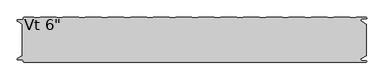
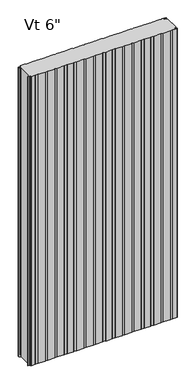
"""IFC4 building model written with IfcOpenShell, lengths in millimetres: plate geometry."""

from ifc_helpers import new_model, si_unit, frame, origin, place, context, project, spatial, polyline, circle_curve, source, transform, mapped, element, save
from ifc_brep_helpers import plane_surface, cylinder_surface, revolved_surface, advanced_brep


def plate_a32a1a45(model_context):
    return source(origin(), model_context, "Body", "AdvancedBrep", [
        advanced_brep(
        [(521.5205195, -150.2088405, 2400.0), (541.3035142, -150.2088405, 2400.0), (542.3760351, -151.3999956, 2400.0), (574.5475652, -151.3999956, 2400.0), (576.5248337, -149.4227271, 2400.0), (576.5248337, -148.3806285, 2400.0), (574.5475652, -146.40336, 2400.0), (560.3591802, -146.40336, 2400.0), (557.7713036, -143.8154835, 2400.0), (557.7713036, -139.4950653, 2400.0), (557.1628365, -138.9060718, 2400.0), (554.7857432, -138.9060718, 2400.0), (554.7857432, -137.9065979, 2400.0), (560.2280123, -137.9065979, 2400.0), (576.2625, -128.6490821, 2400.0), (576.2625, -23.7509179, 2400.0), (560.2280123, -14.4934021, 2400.0), (554.7857432, -14.4934021, 2400.0), (554.7857432, -13.4939282, 2400.0), (557.1628365, -13.4939282, 2400.0), (557.7713036, -12.9049347, 2400.0), (557.7713036, -8.5845165, 2400.0), (560.3591802, -5.99664, 2400.0), (574.5475652, -5.99664, 2400.0), (576.5248337, -4.0193715, 2400.0), (576.5248337, -2.9772729, 2400.0), (574.5475652, -1.0000044, 2400.0), (542.3760351, -1.0000044, 2400.0), (541.3035142, -2.1911595, 2400.0), (521.5205195, -2.1911595, 2400.0), (520.4479947, -1.0, 2400.0), (466.7534187, -1.0, 2400.0), (465.6808939, -2.1911595, 2400.0), (445.8978992, -2.1911595, 2400.0), (444.8253744, -1.0, 2400.0), (391.1307985, -1.0, 2400.0), (390.0582736, -2.1911595, 2400.0), (370.275279, -2.1911595, 2400.0), (369.2027541, -1.0, 2400.0), (315.5081782, -1.0, 2400.0), (314.4356534, -2.1911595, 2400.0), (294.6526587, -2.1911595, 2400.0), (293.5801339, -1.0, 2400.0), (239.885558, -1.0, 2400.0), (238.8130331, -2.1911595, 2400.0), (219.0300384, -2.1911595, 2400.0), (217.9575136, -1.0, 2400.0), (164.2629377, -1.0, 2400.0), (163.1904129, -2.1911595, 2400.0), (143.4074182, -2.1911595, 2400.0), (142.3348933, -1.0, 2400.0), (88.6403174, -1.0, 2400.0), (87.5677926, -2.1911595, 2400.0), (67.7847979, -2.1911595, 2400.0), (66.7122731, -1.0, 2400.0), (13.0176972, -1.0, 2400.0), (11.9451723, -2.1911595, 2400.0), (-7.8378224, -2.1911595, 2400.0), (-8.9103472, -1.0, 2400.0), (-62.6049231, -1.0, 2400.0), (-63.6774479, -2.1911595, 2400.0), (-83.4604426, -2.1911595, 2400.0), (-84.5329675, -1.0, 2400.0), (-138.2275434, -1.0, 2400.0), (-139.3000682, -2.1911595, 2400.0), (-159.0830629, -2.1911595, 2400.0), (-160.1555877, -1.0, 2400.0), (-213.8501636, -1.0, 2400.0), (-214.9226885, -2.1911595, 2400.0), (-234.7056831, -2.1911595, 2400.0), (-235.778208, -1.0, 2400.0), (-289.4727839, -1.0, 2400.0), (-290.5453087, -2.1911595, 2400.0), (-310.3283034, -2.1911595, 2400.0), (-311.4008282, -1.0, 2400.0), (-365.0954042, -1.0, 2400.0), (-366.167929, -2.1911595, 2400.0), (-385.9509237, -2.1911595, 2400.0), (-387.0234485, -1.0, 2400.0), (-440.7180244, -1.0, 2400.0), (-441.7905493, -2.1911595, 2400.0), (-461.5735439, -2.1911595, 2400.0), (-462.6460688, -1.0, 2400.0), (-516.3406447, -1.0, 2400.0), (-517.4131695, -2.1911595, 2400.0), (-537.1961642, -2.1911595, 2400.0), (-538.268689, -1.0000109, 2400.0), (-570.4352761, -1.0000109, 2400.0), (-572.4125501, -2.9772849, 2400.0), (-572.4125501, -5.2691749, 2400.0), (-576.3898173, -9.246442, 2400.0), (-591.9862417, -9.246442, 2400.0), (-592.5741186, -9.8343189, 2400.0), (-592.5741186, -12.9058679, 2400.0), (-591.986242, -13.4937446, 2400.0), (-589.6312064, -13.4937446, 2400.0), (-589.6312064, -14.4937446, 2400.0), (-591.9207851, -14.4937446, 2400.0), (-576.2625, -23.7509179, 2400.0), (-576.2625, -128.6490865, 2400.0), (-591.9207851, -137.9062554, 2400.0), (-589.6312064, -137.9062554, 2400.0), (-589.6312064, -138.9062554, 2400.0), (-591.986242, -138.9062554, 2400.0), (-592.5741186, -139.4941321, 2400.0), (-592.5741186, -142.5656811, 2400.0), (-591.9862417, -143.153558, 2400.0), (-576.3898173, -143.153558, 2400.0), (-572.4125501, -147.1308251, 2400.0), (-572.4125501, -149.4227151, 2400.0), (-570.4352761, -151.3999891, 2400.0), (-538.268689, -151.3999891, 2400.0), (-537.1961642, -150.2088405, 2400.0), (-517.4131695, -150.2088405, 2400.0), (-516.3406447, -151.4, 2400.0), (-462.6460688, -151.4, 2400.0), (-461.5735439, -150.2088405, 2400.0), (-441.7905493, -150.2088405, 2400.0), (-440.7180244, -151.4, 2400.0), (-387.0234485, -151.4, 2400.0), (-385.9509237, -150.2088405, 2400.0), (-366.167929, -150.2088405, 2400.0), (-365.0954042, -151.4, 2400.0), (-311.4008282, -151.4, 2400.0), (-310.3283034, -150.2088405, 2400.0), (-290.5453087, -150.2088405, 2400.0), (-289.4727839, -151.4, 2400.0), (-235.778208, -151.4, 2400.0), (-234.7056831, -150.2088405, 2400.0), (-214.9226885, -150.2088405, 2400.0), (-213.8501636, -151.4, 2400.0), (-160.1555877, -151.4, 2400.0), (-159.0830629, -150.2088405, 2400.0), (-139.3000682, -150.2088405, 2400.0), (-138.2275434, -151.4, 2400.0), (-84.5329675, -151.4, 2400.0), (-83.4604426, -150.2088405, 2400.0), (-63.6774479, -150.2088405, 2400.0), (-62.6049231, -151.4, 2400.0), (-8.9103472, -151.4, 2400.0), (-7.8378224, -150.2088405, 2400.0), (11.9451723, -150.2088405, 2400.0), (13.0176972, -151.4, 2400.0), (66.7122731, -151.4, 2400.0), (67.7847979, -150.2088405, 2400.0), (87.5677926, -150.2088405, 2400.0), (88.6403174, -151.4, 2400.0), (142.3348933, -151.4, 2400.0), (143.4074182, -150.2088405, 2400.0), (163.1904129, -150.2088405, 2400.0), (164.2629377, -151.4, 2400.0), (217.9575136, -151.4, 2400.0), (219.0300384, -150.2088405, 2400.0), (238.8130331, -150.2088405, 2400.0), (239.885558, -151.4, 2400.0), (293.5801339, -151.4, 2400.0), (294.6526587, -150.2088405, 2400.0), (314.4356534, -150.2088405, 2400.0), (315.5081782, -151.4, 2400.0), (369.2027541, -151.4, 2400.0), (370.275279, -150.2088405, 2400.0), (390.0582736, -150.2088405, 2400.0), (391.1307985, -151.4, 2400.0), (444.8253744, -151.4, 2400.0), (445.8978992, -150.2088405, 2400.0), (465.6808939, -150.2088405, 2400.0), (466.7534187, -151.4, 2400.0), (520.4479947, -151.4, 2400.0), (521.5205195, -150.2088405, 0.0), (520.4479947, -151.4, 0.0), (466.7534187, -151.4, 0.0), (465.6808939, -150.2088405, 0.0), (445.8978992, -150.2088405, 0.0), (444.8253744, -151.4, 0.0), (391.1307985, -151.4, 0.0), (390.0582736, -150.2088405, 0.0), (370.275279, -150.2088405, 0.0), (369.2027541, -151.4, 0.0), (315.5081782, -151.4, 0.0), (314.4356534, -150.2088405, 0.0), (294.6526587, -150.2088405, 0.0), (293.5801339, -151.4, 0.0), (239.885558, -151.4, 0.0), (238.8130331, -150.2088405, 0.0), (219.0300384, -150.2088405, 0.0), (217.9575136, -151.4, 0.0), (164.2629377, -151.4, 0.0), (163.1904129, -150.2088405, 0.0), (143.4074182, -150.2088405, 0.0), (142.3348933, -151.4, 0.0), (88.6403174, -151.4, 0.0), (87.5677926, -150.2088405, 0.0), (67.7847979, -150.2088405, 0.0), (66.7122731, -151.4, 0.0), (13.0176972, -151.4, 0.0), (11.9451723, -150.2088405, 0.0), (-7.8378224, -150.2088405, 0.0), (-8.9103472, -151.4, 0.0), (-62.6049231, -151.4, 0.0), (-63.6774479, -150.2088405, 0.0), (-83.4604426, -150.2088405, 0.0), (-84.5329675, -151.4, 0.0), (-138.2275434, -151.4, 0.0), (-139.3000682, -150.2088405, 0.0), (-159.0830629, -150.2088405, 0.0), (-160.1555877, -151.4, 0.0), (-213.8501636, -151.4, 0.0), (-214.9226885, -150.2088405, 0.0), (-234.7056831, -150.2088405, 0.0), (-235.778208, -151.4, 0.0), (-289.4727839, -151.4, 0.0), (-290.5453087, -150.2088405, 0.0), (-310.3283034, -150.2088405, 0.0), (-311.4008282, -151.4, 0.0), (-365.0954042, -151.4, 0.0), (-366.167929, -150.2088405, 0.0), (-385.9509237, -150.2088405, 0.0), (-387.0234485, -151.4, 0.0), (-440.7180244, -151.4, 0.0), (-441.7905493, -150.2088405, 0.0), (-461.5735439, -150.2088405, 0.0), (-462.6460688, -151.4, 0.0), (-516.3406447, -151.4, 0.0), (-517.4131695, -150.2088405, 0.0), (-537.1961642, -150.2088405, 0.0), (-538.268689, -151.3999891, 0.0), (-570.4352761, -151.3999891, 0.0), (-572.4125501, -149.4227151, 0.0), (-572.4125501, -147.1308251, 0.0), (-576.3898173, -143.153558, 0.0), (-591.9862417, -143.153558, 0.0), (-592.5741186, -142.5656811, 0.0), (-592.5741186, -139.4941321, 0.0), (-591.986242, -138.9062554, 0.0), (-589.6312064, -138.9062554, 0.0), (-589.6312064, -137.9062554, 0.0), (-591.9207851, -137.9062554, 0.0), (-576.2625, -128.6490821, 0.0), (-576.2625, -23.7509179, 0.0), (-591.9207851, -14.4937446, 0.0), (-589.6312064, -14.4937446, 0.0), (-589.6312064, -13.4937446, 0.0), (-591.986242, -13.4937446, 0.0), (-592.5741186, -12.9058679, 0.0), (-592.5741186, -9.8343189, 0.0), (-591.9862417, -9.246442, 0.0), (-576.3898173, -9.246442, 0.0), (-572.4125501, -5.2691749, 0.0), (-572.4125501, -2.9772849, 0.0), (-570.4352761, -1.0000109, 0.0), (-538.268689, -1.0000109, 0.0), (-537.1961642, -2.1911595, 0.0), (-517.4131695, -2.1911595, 0.0), (-516.3406447, -1.0, 0.0), (-462.6460688, -1.0, 0.0), (-461.5735439, -2.1911595, 0.0), (-441.7905493, -2.1911595, 0.0), (-440.7180244, -1.0, 0.0), (-387.0234485, -1.0, 0.0), (-385.9509237, -2.1911595, 0.0), (-366.167929, -2.1911595, 0.0), (-365.0954042, -1.0, 0.0), (-311.4008282, -1.0, 0.0), (-310.3283034, -2.1911595, 0.0), (-290.5453087, -2.1911595, 0.0), (-289.4727839, -1.0, 0.0), (-235.778208, -1.0, 0.0), (-234.7056831, -2.1911595, 0.0), (-214.9226885, -2.1911595, 0.0), (-213.8501636, -1.0, 0.0), (-160.1555877, -1.0, 0.0), (-159.0830629, -2.1911595, 0.0), (-139.3000682, -2.1911595, 0.0), (-138.2275434, -1.0, 0.0), (-84.5329675, -1.0, 0.0), (-83.4604426, -2.1911595, 0.0), (-63.6774479, -2.1911595, 0.0), (-62.6049231, -1.0, 0.0), (-8.9103472, -1.0, 0.0), (-7.8378224, -2.1911595, 0.0), (11.9451723, -2.1911595, 0.0), (13.0176972, -1.0, 0.0), (66.7122731, -1.0, 0.0), (67.7847979, -2.1911595, 0.0), (87.5677926, -2.1911595, 0.0), (88.6403174, -1.0, 0.0), (142.3348933, -1.0, 0.0), (143.4074182, -2.1911595, 0.0), (163.1904129, -2.1911595, 0.0), (164.2629377, -1.0, 0.0), (217.9575136, -1.0, 0.0), (219.0300384, -2.1911595, 0.0), (238.8130331, -2.1911595, 0.0), (239.885558, -1.0, 0.0), (293.5801339, -1.0, 0.0), (294.6526587, -2.1911595, 0.0), (314.4356534, -2.1911595, 0.0), (315.5081782, -1.0, 0.0), (369.2027541, -1.0, 0.0), (370.275279, -2.1911595, 0.0), (390.0582736, -2.1911595, 0.0), (391.1307985, -1.0, 0.0), (444.8253744, -1.0, 0.0), (445.8978992, -2.1911595, 0.0), (465.6808939, -2.1911595, 0.0), (466.7534187, -1.0, 0.0), (520.4479947, -1.0, 0.0), (521.5205195, -2.1911595, 0.0), (541.3035142, -2.1911595, 0.0), (542.3760351, -1.0000044, 0.0), (574.5475652, -1.0000044, 0.0), (576.5248337, -2.9772729, 0.0), (576.5248337, -4.0193715, 0.0), (574.5475652, -5.99664, 0.0), (560.3591802, -5.99664, 0.0), (557.7713036, -8.5845165, 0.0), (557.7713036, -12.9049347, 0.0), (557.1628365, -13.4939282, 0.0), (554.7857432, -13.4939282, 0.0), (554.7857432, -14.4934021, 0.0), (560.2280123, -14.4934021, 0.0), (576.2625, -23.7509179, 0.0), (576.2625, -128.6490865, 0.0), (560.2280123, -137.9065979, 0.0), (554.7857432, -137.9065979, 0.0), (554.7857432, -138.9060718, 0.0), (557.1628365, -138.9060718, 0.0), (557.7713036, -139.4950653, 0.0), (557.7713036, -143.8154835, 0.0), (560.3591802, -146.40336, 0.0), (574.5475652, -146.40336, 0.0), (576.5248337, -148.3806285, 0.0), (576.5248337, -149.4227271, 0.0), (574.5475652, -151.3999956, 0.0), (542.3760351, -151.3999956, 0.0), (541.3035142, -150.2088405, 0.0)],
        [
            (0, 1),
            (1, 2),
            (2, 3),
            (3, 4, circle_curve(frame((574.5475652, -149.4227271, 2400.0), z_axis=(0.0, 0.0, 1.0), x_axis=(-1.0, 0.0, 0.0)), 1.9772685)),
            (4, 5),
            (5, 6, circle_curve(frame((574.5475652, -148.3806285, 2400.0), z_axis=(0.0, 0.0, 1.0), x_axis=(-1.0, 0.0, 0.0)), 1.9772685)),
            (6, 7),
            (7, 8, circle_curve(frame((560.3591802, -143.8154835, 2400.0), z_axis=(0.0, 0.0, -1.0), x_axis=(-1.0, 0.0, 0.0)), 2.5878765)),
            (8, 9),
            (9, 10, circle_curve(frame((557.1819985, -139.4950653, 2400.0), z_axis=(0.0, 0.0, 1.0), x_axis=(-1.0, 0.0, 0.0)), 0.5893051)),
            (10, 11),
            (11, 12),
            (12, 13),
            (13, 14),
            (14, 15),
            (15, 16),
            (16, 17),
            (17, 18),
            (18, 19),
            (19, 20, circle_curve(frame((557.1819985, -12.9049347, 2400.0), z_axis=(0.0, 0.0, 1.0), x_axis=(0.0, 1.0, 0.0)), 0.5893051)),
            (20, 21),
            (21, 22, circle_curve(frame((560.3591802, -8.5845165, 2400.0), z_axis=(0.0, 0.0, -1.0), x_axis=(0.0, 1.0, 0.0)), 2.5878765)),
            (22, 23),
            (23, 24, circle_curve(frame((574.5475652, -4.0193715, 2400.0), z_axis=(0.0, 0.0, 1.0), x_axis=(0.0, 1.0, 0.0)), 1.9772685)),
            (24, 25),
            (25, 26, circle_curve(frame((574.5475652, -2.9772729, 2400.0), z_axis=(0.0, 0.0, 1.0), x_axis=(0.0, 1.0, 0.0)), 1.9772685)),
            (26, 27),
            (27, 28),
            (28, 29),
            (29, 30),
            (30, 31),
            (31, 32),
            (32, 33),
            (33, 34),
            (34, 35),
            (35, 36),
            (36, 37),
            (37, 38),
            (38, 39),
            (39, 40),
            (40, 41),
            (41, 42),
            (42, 43),
            (43, 44),
            (44, 45),
            (45, 46),
            (46, 47),
            (47, 48),
            (48, 49),
            (49, 50),
            (50, 51),
            (51, 52),
            (52, 53),
            (53, 54),
            (54, 55),
            (55, 56),
            (56, 57),
            (57, 58),
            (58, 59),
            (59, 60),
            (60, 61),
            (61, 62),
            (62, 63),
            (63, 64),
            (64, 65),
            (65, 66),
            (66, 67),
            (67, 68),
            (68, 69),
            (69, 70),
            (70, 71),
            (71, 72),
            (72, 73),
            (73, 74),
            (74, 75),
            (75, 76),
            (76, 77),
            (77, 78),
            (78, 79),
            (79, 80),
            (80, 81),
            (81, 82),
            (82, 83),
            (83, 84),
            (84, 85),
            (85, 86),
            (86, 87),
            (87, 88, circle_curve(frame((-570.4352761, -2.9772849, 2400.0), z_axis=(0.0, 0.0, 1.0), x_axis=(0.0, 1.0, 0.0)), 1.977274)),
            (88, 89),
            (89, 90, circle_curve(frame((-576.3898173, -5.2691749, 2400.0), z_axis=(0.0, 0.0, -1.0), x_axis=(0.0, 1.0, 0.0)), 3.9772671)),
            (90, 91),
            (91, 92, circle_curve(frame((-591.9862417, -9.8343189, 2400.0), z_axis=(0.0, 0.0, 1.0), x_axis=(0.0, 1.0, 0.0)), 0.5878769)),
            (92, 93),
            (93, 94, circle_curve(frame((-591.986242, -12.9058679, 2400.0), z_axis=(0.0, 0.0, 1.0), x_axis=(0.0, 1.0, 0.0)), 0.5878766)),
            (94, 95),
            (95, 96),
            (96, 97),
            (97, 98),
            (98, 99),
            (99, 100),
            (100, 101),
            (101, 102),
            (102, 103),
            (103, 104, circle_curve(frame((-591.986242, -139.4941321, 2400.0), z_axis=(0.0, 0.0, 1.0), x_axis=(-1.0, 0.0, 0.0)), 0.5878766)),
            (104, 105),
            (105, 106, circle_curve(frame((-591.9862417, -142.5656811, 2400.0), z_axis=(0.0, 0.0, 1.0), x_axis=(-1.0, 0.0, 0.0)), 0.5878769)),
            (106, 107),
            (107, 108, circle_curve(frame((-576.3898173, -147.1308251, 2400.0), z_axis=(0.0, 0.0, -1.0), x_axis=(-1.0, 0.0, 0.0)), 3.9772671)),
            (108, 109),
            (109, 110, circle_curve(frame((-570.4352761, -149.4227151, 2400.0), z_axis=(0.0, 0.0, 1.0), x_axis=(-1.0, 0.0, 0.0)), 1.977274)),
            (110, 111),
            (111, 112),
            (112, 113),
            (113, 114),
            (114, 115),
            (115, 116),
            (116, 117),
            (117, 118),
            (118, 119),
            (119, 120),
            (120, 121),
            (121, 122),
            (122, 123),
            (123, 124),
            (124, 125),
            (125, 126),
            (126, 127),
            (127, 128),
            (128, 129),
            (129, 130),
            (130, 131),
            (131, 132),
            (132, 133),
            (133, 134),
            (134, 135),
            (135, 136),
            (136, 137),
            (137, 138),
            (138, 139),
            (139, 140),
            (140, 141),
            (141, 142),
            (142, 143),
            (143, 144),
            (144, 145),
            (145, 146),
            (146, 147),
            (147, 148),
            (148, 149),
            (149, 150),
            (150, 151),
            (151, 152),
            (152, 153),
            (153, 154),
            (154, 155),
            (155, 156),
            (156, 157),
            (157, 158),
            (158, 159),
            (159, 160),
            (160, 161),
            (161, 162),
            (162, 163),
            (163, 164),
            (164, 165),
            (165, 166),
            (166, 167),
            (167, 0),
            (168, 169),
            (169, 170),
            (170, 171),
            (171, 172),
            (172, 173),
            (173, 174),
            (174, 175),
            (175, 176),
            (176, 177),
            (177, 178),
            (178, 179),
            (179, 180),
            (180, 181),
            (181, 182),
            (182, 183),
            (183, 184),
            (184, 185),
            (185, 186),
            (186, 187),
            (187, 188),
            (188, 189),
            (189, 190),
            (190, 191),
            (191, 192),
            (192, 193),
            (193, 194),
            (194, 195),
            (195, 196),
            (196, 197),
            (197, 198),
            (198, 199),
            (199, 200),
            (200, 201),
            (201, 202),
            (202, 203),
            (203, 204),
            (204, 205),
            (205, 206),
            (206, 207),
            (207, 208),
            (208, 209),
            (209, 210),
            (210, 211),
            (211, 212),
            (212, 213),
            (213, 214),
            (214, 215),
            (215, 216),
            (216, 217),
            (217, 218),
            (218, 219),
            (219, 220),
            (220, 221),
            (221, 222),
            (222, 223),
            (223, 224),
            (224, 225),
            (225, 226),
            (226, 227, circle_curve(frame((-570.4352761, -149.4227151, 0.0), z_axis=(0.0, 0.0, -1.0), x_axis=(-1.0, 0.0, 0.0)), 1.977274)),
            (227, 228),
            (228, 229, circle_curve(frame((-576.3898173, -147.1308251, 0.0), z_axis=(0.0, 0.0, 1.0), x_axis=(-1.0, 0.0, 0.0)), 3.9772671)),
            (229, 230),
            (230, 231, circle_curve(frame((-591.9862417, -142.5656811, 0.0), z_axis=(0.0, 0.0, -1.0), x_axis=(-1.0, 0.0, 0.0)), 0.5878769)),
            (231, 232),
            (232, 233, circle_curve(frame((-591.986242, -139.4941321, 0.0), z_axis=(0.0, 0.0, -1.0), x_axis=(-1.0, 0.0, 0.0)), 0.5878766)),
            (233, 234),
            (234, 235),
            (235, 236),
            (236, 237),
            (237, 238),
            (238, 239),
            (239, 240),
            (240, 241),
            (241, 242),
            (242, 243, circle_curve(frame((-591.986242, -12.9058679, 0.0), z_axis=(0.0, 0.0, -1.0), x_axis=(0.0, 1.0, 0.0)), 0.5878766)),
            (243, 244),
            (244, 245, circle_curve(frame((-591.9862417, -9.8343189, 0.0), z_axis=(0.0, 0.0, -1.0), x_axis=(0.0, 1.0, 0.0)), 0.5878769)),
            (245, 246),
            (246, 247, circle_curve(frame((-576.3898173, -5.2691749, 0.0), z_axis=(0.0, 0.0, 1.0), x_axis=(0.0, 1.0, 0.0)), 3.9772671)),
            (247, 248),
            (248, 249, circle_curve(frame((-570.4352761, -2.9772849, 0.0), z_axis=(0.0, 0.0, -1.0), x_axis=(0.0, 1.0, 0.0)), 1.977274)),
            (249, 250),
            (250, 251),
            (251, 252),
            (252, 253),
            (253, 254),
            (254, 255),
            (255, 256),
            (256, 257),
            (257, 258),
            (258, 259),
            (259, 260),
            (260, 261),
            (261, 262),
            (262, 263),
            (263, 264),
            (264, 265),
            (265, 266),
            (266, 267),
            (267, 268),
            (268, 269),
            (269, 270),
            (270, 271),
            (271, 272),
            (272, 273),
            (273, 274),
            (274, 275),
            (275, 276),
            (276, 277),
            (277, 278),
            (278, 279),
            (279, 280),
            (280, 281),
            (281, 282),
            (282, 283),
            (283, 284),
            (284, 285),
            (285, 286),
            (286, 287),
            (287, 288),
            (288, 289),
            (289, 290),
            (290, 291),
            (291, 292),
            (292, 293),
            (293, 294),
            (294, 295),
            (295, 296),
            (296, 297),
            (297, 298),
            (298, 299),
            (299, 300),
            (300, 301),
            (301, 302),
            (302, 303),
            (303, 304),
            (304, 305),
            (305, 306),
            (306, 307),
            (307, 308),
            (308, 309),
            (309, 310),
            (310, 311, circle_curve(frame((574.5475652, -2.9772729, 0.0), z_axis=(0.0, 0.0, -1.0), x_axis=(0.0, 1.0, 0.0)), 1.9772685)),
            (311, 312),
            (312, 313, circle_curve(frame((574.5475652, -4.0193715, 0.0), z_axis=(0.0, 0.0, -1.0), x_axis=(0.0, 1.0, 0.0)), 1.9772685)),
            (313, 314),
            (314, 315, circle_curve(frame((560.3591802, -8.5845165, 0.0), z_axis=(0.0, 0.0, 1.0), x_axis=(0.0, 1.0, 0.0)), 2.5878765)),
            (315, 316),
            (316, 317, circle_curve(frame((557.1819985, -12.9049347, 0.0), z_axis=(0.0, 0.0, -1.0), x_axis=(0.0, 1.0, 0.0)), 0.5893051)),
            (317, 318),
            (318, 319),
            (319, 320),
            (320, 321),
            (321, 322),
            (322, 323),
            (323, 324),
            (324, 325),
            (325, 326),
            (326, 327, circle_curve(frame((557.1819985, -139.4950653, 0.0), z_axis=(0.0, 0.0, -1.0), x_axis=(-1.0, 0.0, 0.0)), 0.5893051)),
            (327, 328),
            (328, 329, circle_curve(frame((560.3591802, -143.8154835, 0.0), z_axis=(0.0, 0.0, 1.0), x_axis=(-1.0, 0.0, 0.0)), 2.5878765)),
            (329, 330),
            (330, 331, circle_curve(frame((574.5475652, -148.3806285, 0.0), z_axis=(0.0, 0.0, -1.0), x_axis=(-1.0, 0.0, 0.0)), 1.9772685)),
            (331, 332),
            (332, 333, circle_curve(frame((574.5475652, -149.4227271, 0.0), z_axis=(0.0, 0.0, -1.0), x_axis=(-1.0, 0.0, 0.0)), 1.9772685)),
            (333, 334),
            (334, 335),
            (335, 168),
            (98, 238),
            (237, 99),
            (14, 322),
            (321, 15),
            (28, 308),
            (307, 29),
            (27, 309),
            (26, 310),
            (25, 311),
            (24, 312),
            (23, 313),
            (22, 314),
            (21, 315),
            (20, 316),
            (19, 317),
            (18, 318),
            (17, 319),
            (16, 320),
            (97, 239),
            (96, 240),
            (95, 241),
            (94, 242),
            (93, 243),
            (92, 244),
            (91, 245),
            (90, 246),
            (89, 247),
            (88, 248),
            (87, 249),
            (86, 250),
            (85, 251),
            (84, 252),
            (83, 253),
            (82, 254),
            (81, 255),
            (80, 256),
            (79, 257),
            (78, 258),
            (77, 259),
            (76, 260),
            (75, 261),
            (74, 262),
            (73, 263),
            (72, 264),
            (71, 265),
            (70, 266),
            (69, 267),
            (68, 268),
            (67, 269),
            (66, 270),
            (65, 271),
            (64, 272),
            (63, 273),
            (62, 274),
            (61, 275),
            (60, 276),
            (59, 277),
            (58, 278),
            (57, 279),
            (56, 280),
            (55, 281),
            (54, 282),
            (53, 283),
            (52, 284),
            (51, 285),
            (50, 286),
            (49, 287),
            (48, 288),
            (47, 289),
            (46, 290),
            (45, 291),
            (44, 292),
            (43, 293),
            (42, 294),
            (41, 295),
            (40, 296),
            (39, 297),
            (38, 298),
            (37, 299),
            (36, 300),
            (35, 301),
            (34, 302),
            (33, 303),
            (32, 304),
            (31, 305),
            (30, 306),
            (167, 169),
            (168, 0),
            (166, 170),
            (165, 171),
            (164, 172),
            (163, 173),
            (162, 174),
            (161, 175),
            (160, 176),
            (159, 177),
            (158, 178),
            (157, 179),
            (156, 180),
            (155, 181),
            (154, 182),
            (153, 183),
            (152, 184),
            (151, 185),
            (150, 186),
            (149, 187),
            (148, 188),
            (147, 189),
            (146, 190),
            (145, 191),
            (144, 192),
            (143, 193),
            (142, 194),
            (141, 195),
            (140, 196),
            (139, 197),
            (138, 198),
            (137, 199),
            (136, 200),
            (135, 201),
            (134, 202),
            (133, 203),
            (132, 204),
            (131, 205),
            (130, 206),
            (129, 207),
            (128, 208),
            (127, 209),
            (126, 210),
            (125, 211),
            (124, 212),
            (123, 213),
            (122, 214),
            (121, 215),
            (120, 216),
            (119, 217),
            (118, 218),
            (117, 219),
            (116, 220),
            (115, 221),
            (114, 222),
            (113, 223),
            (112, 224),
            (111, 225),
            (110, 226),
            (109, 227),
            (108, 228),
            (107, 229),
            (106, 230),
            (105, 231),
            (104, 232),
            (103, 233),
            (102, 234),
            (101, 235),
            (100, 236),
            (13, 323),
            (12, 324),
            (11, 325),
            (10, 326),
            (9, 327),
            (8, 328),
            (7, 329),
            (6, 330),
            (5, 331),
            (4, 332),
            (3, 333),
            (2, 334),
            (1, 335),
        ],
        [
            plane_surface(frame((0.0, -151.4, 2400.0), z_axis=(0.0, 0.0, 1.0), x_axis=(0.0, -1.0, 0.0))),
            plane_surface(frame((0.0, -151.4, 0.0), z_axis=(0.0, 0.0, -1.0), x_axis=(0.0, -1.0, 0.0))),
            plane_surface(frame((-576.2625, -128.6490865, 2400.0), z_axis=(-1.0, 0.0, 0.0), x_axis=(0.0, 0.0, -1.0))),
            plane_surface(frame((576.2625, -23.7509179, 2400.0), z_axis=(1.0, 0.0, 0.0), x_axis=(0.0, 0.0, -1.0))),
            plane_surface(frame((521.5205195, -2.1911595, 2400.0), z_axis=(0.0, 1.0, 0.0), x_axis=(0.0, 0.0, -1.0))),
            plane_surface(frame((541.3035142, -2.1911595, 2400.0), z_axis=(-0.7431448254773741, 0.6691306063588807, 0.0), x_axis=(0.0, 0.0, -1.0))),
            plane_surface(frame((542.3760351, -1.0000044, 2400.0), z_axis=(0.0, 1.0, 0.0), x_axis=(0.0, 0.0, -1.0))),
            cylinder_surface(frame((574.5475652, -2.9772729, 2400.0), z_axis=(0.0, 0.0, 1.0), x_axis=(0.0, 1.0, 0.0)), 1.9772685),
            plane_surface(frame((576.5248337, -2.9772729, 2400.0), z_axis=(1.0, 0.0, 0.0), x_axis=(0.0, 0.0, -1.0))),
            cylinder_surface(frame((574.5475652, -4.0193715, 2400.0), z_axis=(0.0, 0.0, 1.0), x_axis=(0.0, 1.0, 0.0)), 1.9772685),
            plane_surface(frame((574.5475652, -5.99664, 2400.0), z_axis=(0.0, -1.0, 0.0), x_axis=(0.0, 0.0, -1.0))),
            revolved_surface(polyline([(560.3591802, -5.996639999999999, 0.0), (560.3591802, -5.996639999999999, 2400.0)]), (560.3591802, -8.5845165, 2400.0), (0.0, 0.0, -1.0)),
            plane_surface(frame((557.7713036, -8.5845165, 2400.0), z_axis=(1.0, 0.0, 0.0), x_axis=(0.0, 0.0, -1.0))),
            cylinder_surface(frame((557.1819985, -12.9049347, 2400.0), z_axis=(0.0, 0.0, 1.0), x_axis=(0.0, 1.0, 0.0)), 0.5893051),
            plane_surface(frame((557.1628365, -13.4939282, 2400.0), z_axis=(0.0, -1.0, 0.0), x_axis=(0.0, 0.0, -1.0))),
            plane_surface(frame((554.7857432, -13.4939282, 2400.0), z_axis=(1.0, 0.0, 0.0), x_axis=(0.0, 0.0, -1.0))),
            plane_surface(frame((554.7857432, -14.4934021, 2400.0), z_axis=(0.0, 1.0, 0.0), x_axis=(0.0, 0.0, -1.0))),
            plane_surface(frame((560.2280123, -14.4934021, 2400.0), z_axis=(0.5000000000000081, 0.866025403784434, 0.0), x_axis=(0.0, 0.0, -1.0))),
            plane_surface(frame((-576.2625, -23.7509179, 2400.0), z_axis=(-0.5089147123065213, -0.860816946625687, 0.0), x_axis=(0.0, 0.0, -1.0))),
            plane_surface(frame((-591.9207851, -14.4937446, 2400.0), z_axis=(0.0, 1.0, 0.0), x_axis=(0.0, 0.0, -1.0))),
            plane_surface(frame((-589.6312064, -14.4937446, 2400.0), z_axis=(-1.0, 0.0, 0.0), x_axis=(0.0, 0.0, -1.0))),
            plane_surface(frame((-589.6312064, -13.4937446, 2400.0), z_axis=(0.0, -1.0, 0.0), x_axis=(0.0, 0.0, -1.0))),
            cylinder_surface(frame((-591.986242, -12.9058679, 2400.0), z_axis=(0.0, 0.0, 1.0), x_axis=(0.0, 1.0, 0.0)), 0.5878766),
            plane_surface(frame((-592.5741186, -12.9058679, 2400.0), z_axis=(-1.0, 0.0, 0.0), x_axis=(0.0, 0.0, -1.0))),
            cylinder_surface(frame((-591.9862417, -9.8343189, 2400.0), z_axis=(0.0, 0.0, 1.0), x_axis=(0.0, 1.0, 0.0)), 0.5878769),
            plane_surface(frame((-591.9862417, -9.246442, 2400.0), z_axis=(0.0, 1.0, 0.0), x_axis=(0.0, 0.0, -1.0))),
            revolved_surface(polyline([(-576.3898173, -1.2919078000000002, 0.0), (-576.3898173, -1.2919078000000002, 2400.0)]), (-576.3898173, -5.2691749, 2400.0), (0.0, 0.0, -1.0)),
            plane_surface(frame((-572.4125501, -5.2691749, 2400.0), z_axis=(-1.0, 0.0, 0.0), x_axis=(0.0, 0.0, -1.0))),
            cylinder_surface(frame((-570.4352761, -2.9772849, 2400.0), z_axis=(0.0, 0.0, 1.0), x_axis=(0.0, 1.0, 0.0)), 1.977274),
            plane_surface(frame((-570.4352761, -1.0000109, 2400.0), z_axis=(0.0, 1.0, 0.0), x_axis=(0.0, 0.0, -1.0))),
            plane_surface(frame((-538.268689, -1.0000109, 2400.0), z_axis=(0.7431417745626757, 0.669133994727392, 0.0), x_axis=(0.0, 0.0, -1.0))),
            plane_surface(frame((-537.1961642, -2.1911595, 2400.0), z_axis=(0.0, 1.0, 0.0), x_axis=(0.0, 0.0, -1.0))),
            plane_surface(frame((-517.4131695, -2.1911595, 2400.0), z_axis=(-0.7431448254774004, 0.6691306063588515, 0.0), x_axis=(0.0, 0.0, -1.0))),
            plane_surface(frame((-516.3406447, -1.0, 2400.0), z_axis=(0.0, 1.0, 0.0), x_axis=(0.0, 0.0, -1.0))),
            plane_surface(frame((-462.6460688, -1.0, 2400.0), z_axis=(0.7431448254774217, 0.6691306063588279, 0.0), x_axis=(0.0, 0.0, -1.0))),
            plane_surface(frame((-461.5735439, -2.1911595, 2400.0), z_axis=(0.0, 1.0, 0.0), x_axis=(0.0, 0.0, -1.0))),
            plane_surface(frame((-441.7905493, -2.1911595, 2400.0), z_axis=(-0.7431448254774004, 0.6691306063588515, 0.0), x_axis=(0.0, 0.0, -1.0))),
            plane_surface(frame((-440.7180244, -1.0, 2400.0), z_axis=(0.0, 1.0, 0.0), x_axis=(0.0, 0.0, -1.0))),
            plane_surface(frame((-387.0234485, -1.0, 2400.0), z_axis=(0.7431448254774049, 0.6691306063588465, 0.0), x_axis=(0.0, 0.0, -1.0))),
            plane_surface(frame((-385.9509237, -2.1911595, 2400.0), z_axis=(0.0, 1.0, 0.0), x_axis=(0.0, 0.0, -1.0))),
            plane_surface(frame((-366.167929, -2.1911595, 2400.0), z_axis=(-0.7431448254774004, 0.6691306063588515, 0.0), x_axis=(0.0, 0.0, -1.0))),
            plane_surface(frame((-365.0954042, -1.0, 2400.0), z_axis=(0.0, 1.0, 0.0), x_axis=(0.0, 0.0, -1.0))),
            plane_surface(frame((-311.4008282, -1.0, 2400.0), z_axis=(0.7431448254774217, 0.6691306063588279, 0.0), x_axis=(0.0, 0.0, -1.0))),
            plane_surface(frame((-310.3283034, -2.1911595, 2400.0), z_axis=(0.0, 1.0, 0.0), x_axis=(0.0, 0.0, -1.0))),
            plane_surface(frame((-290.5453087, -2.1911595, 2400.0), z_axis=(-0.7431448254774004, 0.6691306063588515, 0.0), x_axis=(0.0, 0.0, -1.0))),
            plane_surface(frame((-289.4727839, -1.0, 2400.0), z_axis=(0.0, 1.0, 0.0), x_axis=(0.0, 0.0, -1.0))),
            plane_surface(frame((-235.778208, -1.0, 2400.0), z_axis=(0.7431448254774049, 0.6691306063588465, 0.0), x_axis=(0.0, 0.0, -1.0))),
            plane_surface(frame((-234.7056831, -2.1911595, 2400.0), z_axis=(0.0, 1.0, 0.0), x_axis=(0.0, 0.0, -1.0))),
            plane_surface(frame((-214.9226885, -2.1911595, 2400.0), z_axis=(-0.7431448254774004, 0.6691306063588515, 0.0), x_axis=(0.0, 0.0, -1.0))),
            plane_surface(frame((-213.8501636, -1.0, 2400.0), z_axis=(0.0, 1.0, 0.0), x_axis=(0.0, 0.0, -1.0))),
            plane_surface(frame((-160.1555877, -1.0, 2400.0), z_axis=(0.7431448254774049, 0.6691306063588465, 0.0), x_axis=(0.0, 0.0, -1.0))),
            plane_surface(frame((-159.0830629, -2.1911595, 2400.0), z_axis=(0.0, 1.0, 0.0), x_axis=(0.0, 0.0, -1.0))),
            plane_surface(frame((-139.3000682, -2.1911595, 2400.0), z_axis=(-0.7431448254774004, 0.6691306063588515, 0.0), x_axis=(0.0, 0.0, -1.0))),
            plane_surface(frame((-138.2275434, -1.0, 2400.0), z_axis=(0.0, 1.0, 0.0), x_axis=(0.0, 0.0, -1.0))),
            plane_surface(frame((-84.5329675, -1.0, 2400.0), z_axis=(0.7431448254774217, 0.6691306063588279, 0.0), x_axis=(0.0, 0.0, -1.0))),
            plane_surface(frame((-83.4604426, -2.1911595, 2400.0), z_axis=(0.0, 1.0, 0.0), x_axis=(0.0, 0.0, -1.0))),
            plane_surface(frame((-63.6774479, -2.1911595, 2400.0), z_axis=(-0.7431448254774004, 0.6691306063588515, 0.0), x_axis=(0.0, 0.0, -1.0))),
            plane_surface(frame((-62.6049231, -1.0, 2400.0), z_axis=(0.0, 1.0, 0.0), x_axis=(0.0, 0.0, -1.0))),
            plane_surface(frame((-8.9103472, -1.0, 2400.0), z_axis=(0.7431448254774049, 0.6691306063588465, 0.0), x_axis=(0.0, 0.0, -1.0))),
            plane_surface(frame((-7.8378224, -2.1911595, 2400.0), z_axis=(0.0, 1.0, 0.0), x_axis=(0.0, 0.0, -1.0))),
            plane_surface(frame((11.9451723, -2.1911595, 2400.0), z_axis=(-0.7431448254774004, 0.6691306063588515, 0.0), x_axis=(0.0, 0.0, -1.0))),
            plane_surface(frame((13.0176972, -1.0, 2400.0), z_axis=(0.0, 1.0, 0.0), x_axis=(0.0, 0.0, -1.0))),
            plane_surface(frame((66.7122731, -1.0, 2400.0), z_axis=(0.7431448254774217, 0.6691306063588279, 0.0), x_axis=(0.0, 0.0, -1.0))),
            plane_surface(frame((67.7847979, -2.1911595, 2400.0), z_axis=(0.0, 1.0, 0.0), x_axis=(0.0, 0.0, -1.0))),
            plane_surface(frame((87.5677926, -2.1911595, 2400.0), z_axis=(-0.7431448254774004, 0.6691306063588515, 0.0), x_axis=(0.0, 0.0, -1.0))),
            plane_surface(frame((88.6403174, -1.0, 2400.0), z_axis=(0.0, 1.0, 0.0), x_axis=(0.0, 0.0, -1.0))),
            plane_surface(frame((142.3348933, -1.0, 2400.0), z_axis=(0.7431448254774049, 0.6691306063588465, 0.0), x_axis=(0.0, 0.0, -1.0))),
            plane_surface(frame((143.4074182, -2.1911595, 2400.0), z_axis=(0.0, 1.0, 0.0), x_axis=(0.0, 0.0, -1.0))),
            plane_surface(frame((163.1904129, -2.1911595, 2400.0), z_axis=(-0.7431448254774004, 0.6691306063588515, 0.0), x_axis=(0.0, 0.0, -1.0))),
            plane_surface(frame((164.2629377, -1.0, 2400.0), z_axis=(0.0, 1.0, 0.0), x_axis=(0.0, 0.0, -1.0))),
            plane_surface(frame((217.9575136, -1.0, 2400.0), z_axis=(0.7431448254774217, 0.6691306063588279, 0.0), x_axis=(0.0, 0.0, -1.0))),
            plane_surface(frame((219.0300384, -2.1911595, 2400.0), z_axis=(0.0, 1.0, 0.0), x_axis=(0.0, 0.0, -1.0))),
            plane_surface(frame((238.8130331, -2.1911595, 2400.0), z_axis=(-0.7431448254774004, 0.6691306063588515, 0.0), x_axis=(0.0, 0.0, -1.0))),
            plane_surface(frame((239.885558, -1.0, 2400.0), z_axis=(0.0, 1.0, 0.0), x_axis=(0.0, 0.0, -1.0))),
            plane_surface(frame((293.5801339, -1.0, 2400.0), z_axis=(0.7431448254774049, 0.6691306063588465, 0.0), x_axis=(0.0, 0.0, -1.0))),
            plane_surface(frame((294.6526587, -2.1911595, 2400.0), z_axis=(0.0, 1.0, 0.0), x_axis=(0.0, 0.0, -1.0))),
            plane_surface(frame((314.4356534, -2.1911595, 2400.0), z_axis=(-0.7431448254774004, 0.6691306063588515, 0.0), x_axis=(0.0, 0.0, -1.0))),
            plane_surface(frame((315.5081782, -1.0, 2400.0), z_axis=(0.0, 1.0, 0.0), x_axis=(0.0, 0.0, -1.0))),
            plane_surface(frame((369.2027541, -1.0, 2400.0), z_axis=(0.7431448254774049, 0.6691306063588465, 0.0), x_axis=(0.0, 0.0, -1.0))),
            plane_surface(frame((370.275279, -2.1911595, 2400.0), z_axis=(0.0, 1.0, 0.0), x_axis=(0.0, 0.0, -1.0))),
            plane_surface(frame((390.0582736, -2.1911595, 2400.0), z_axis=(-0.7431448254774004, 0.6691306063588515, 0.0), x_axis=(0.0, 0.0, -1.0))),
            plane_surface(frame((391.1307985, -1.0, 2400.0), z_axis=(0.0, 1.0, 0.0), x_axis=(0.0, 0.0, -1.0))),
            plane_surface(frame((444.8253744, -1.0, 2400.0), z_axis=(0.7431448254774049, 0.6691306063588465, 0.0), x_axis=(0.0, 0.0, -1.0))),
            plane_surface(frame((445.8978992, -2.1911595, 2400.0), z_axis=(0.0, 1.0, 0.0), x_axis=(0.0, 0.0, -1.0))),
            plane_surface(frame((465.6808939, -2.1911595, 2400.0), z_axis=(-0.7431448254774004, 0.6691306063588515, 0.0), x_axis=(0.0, 0.0, -1.0))),
            plane_surface(frame((466.7534187, -1.0, 2400.0), z_axis=(0.0, 1.0, 0.0), x_axis=(0.0, 0.0, -1.0))),
            plane_surface(frame((520.4479947, -1.0, 2400.0), z_axis=(0.7431448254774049, 0.6691306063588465, 0.0), x_axis=(0.0, 0.0, -1.0))),
            plane_surface(frame((521.5205195, -150.2088405, 2400.0), z_axis=(0.7431448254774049, -0.6691306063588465, 0.0), x_axis=(0.0, 0.0, -1.0))),
            plane_surface(frame((520.4479947, -151.4, 2400.0), z_axis=(0.0, -1.0, 0.0), x_axis=(0.0, 0.0, -1.0))),
            plane_surface(frame((466.7534187, -151.4, 2400.0), z_axis=(-0.7431448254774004, -0.6691306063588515, 0.0), x_axis=(0.0, 0.0, -1.0))),
            plane_surface(frame((465.6808939, -150.2088405, 2400.0), z_axis=(0.0, -1.0, 0.0), x_axis=(0.0, 0.0, -1.0))),
            plane_surface(frame((445.8978992, -150.2088405, 2400.0), z_axis=(0.7431448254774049, -0.6691306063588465, 0.0), x_axis=(0.0, 0.0, -1.0))),
            plane_surface(frame((444.8253744, -151.4, 2400.0), z_axis=(0.0, -1.0, 0.0), x_axis=(0.0, 0.0, -1.0))),
            plane_surface(frame((391.1307985, -151.4, 2400.0), z_axis=(-0.7431448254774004, -0.6691306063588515, 0.0), x_axis=(0.0, 0.0, -1.0))),
            plane_surface(frame((390.0582736, -150.2088405, 2400.0), z_axis=(0.0, -1.0, 0.0), x_axis=(0.0, 0.0, -1.0))),
            plane_surface(frame((370.275279, -150.2088405, 2400.0), z_axis=(0.7431448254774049, -0.6691306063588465, 0.0), x_axis=(0.0, 0.0, -1.0))),
            plane_surface(frame((369.2027541, -151.4, 2400.0), z_axis=(0.0, -1.0, 0.0), x_axis=(0.0, 0.0, -1.0))),
            plane_surface(frame((315.5081782, -151.4, 2400.0), z_axis=(-0.7431448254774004, -0.6691306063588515, 0.0), x_axis=(0.0, 0.0, -1.0))),
            plane_surface(frame((314.4356534, -150.2088405, 2400.0), z_axis=(0.0, -1.0, 0.0), x_axis=(0.0, 0.0, -1.0))),
            plane_surface(frame((294.6526587, -150.2088405, 2400.0), z_axis=(0.7431448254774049, -0.6691306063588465, 0.0), x_axis=(0.0, 0.0, -1.0))),
            plane_surface(frame((293.5801339, -151.4, 2400.0), z_axis=(0.0, -1.0, 0.0), x_axis=(0.0, 0.0, -1.0))),
            plane_surface(frame((239.885558, -151.4, 2400.0), z_axis=(-0.7431448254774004, -0.6691306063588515, 0.0), x_axis=(0.0, 0.0, -1.0))),
            plane_surface(frame((238.8130331, -150.2088405, 2400.0), z_axis=(0.0, -1.0, 0.0), x_axis=(0.0, 0.0, -1.0))),
            plane_surface(frame((219.0300384, -150.2088405, 2400.0), z_axis=(0.7431448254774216, -0.6691306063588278, 0.0), x_axis=(0.0, 0.0, -1.0))),
            plane_surface(frame((217.9575136, -151.4, 2400.0), z_axis=(0.0, -1.0, 0.0), x_axis=(0.0, 0.0, -1.0))),
            plane_surface(frame((164.2629377, -151.4, 2400.0), z_axis=(-0.7431448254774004, -0.6691306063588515, 0.0), x_axis=(0.0, 0.0, -1.0))),
            plane_surface(frame((163.1904129, -150.2088405, 2400.0), z_axis=(0.0, -1.0, 0.0), x_axis=(0.0, 0.0, -1.0))),
            plane_surface(frame((143.4074182, -150.2088405, 2400.0), z_axis=(0.7431448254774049, -0.6691306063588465, 0.0), x_axis=(0.0, 0.0, -1.0))),
            plane_surface(frame((142.3348933, -151.4, 2400.0), z_axis=(0.0, -1.0, 0.0), x_axis=(0.0, 0.0, -1.0))),
            plane_surface(frame((88.6403174, -151.4, 2400.0), z_axis=(-0.7431448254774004, -0.6691306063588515, 0.0), x_axis=(0.0, 0.0, -1.0))),
            plane_surface(frame((87.5677926, -150.2088405, 2400.0), z_axis=(0.0, -1.0, 0.0), x_axis=(0.0, 0.0, -1.0))),
            plane_surface(frame((67.7847979, -150.2088405, 2400.0), z_axis=(0.7431448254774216, -0.6691306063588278, 0.0), x_axis=(0.0, 0.0, -1.0))),
            plane_surface(frame((66.7122731, -151.4, 2400.0), z_axis=(0.0, -1.0, 0.0), x_axis=(0.0, 0.0, -1.0))),
            plane_surface(frame((13.0176972, -151.4, 2400.0), z_axis=(-0.7431448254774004, -0.6691306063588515, 0.0), x_axis=(0.0, 0.0, -1.0))),
            plane_surface(frame((11.9451723, -150.2088405, 2400.0), z_axis=(0.0, -1.0, 0.0), x_axis=(0.0, 0.0, -1.0))),
            plane_surface(frame((-7.8378224, -150.2088405, 2400.0), z_axis=(0.7431448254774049, -0.6691306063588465, 0.0), x_axis=(0.0, 0.0, -1.0))),
            plane_surface(frame((-8.9103472, -151.4, 2400.0), z_axis=(0.0, -1.0, 0.0), x_axis=(0.0, 0.0, -1.0))),
            plane_surface(frame((-62.6049231, -151.4, 2400.0), z_axis=(-0.7431448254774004, -0.6691306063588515, 0.0), x_axis=(0.0, 0.0, -1.0))),
            plane_surface(frame((-63.6774479, -150.2088405, 2400.0), z_axis=(0.0, -1.0, 0.0), x_axis=(0.0, 0.0, -1.0))),
            plane_surface(frame((-83.4604426, -150.2088405, 2400.0), z_axis=(0.7431448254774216, -0.6691306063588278, 0.0), x_axis=(0.0, 0.0, -1.0))),
            plane_surface(frame((-84.5329675, -151.4, 2400.0), z_axis=(0.0, -1.0, 0.0), x_axis=(0.0, 0.0, -1.0))),
            plane_surface(frame((-138.2275434, -151.4, 2400.0), z_axis=(-0.7431448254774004, -0.6691306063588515, 0.0), x_axis=(0.0, 0.0, -1.0))),
            plane_surface(frame((-139.3000682, -150.2088405, 2400.0), z_axis=(0.0, -1.0, 0.0), x_axis=(0.0, 0.0, -1.0))),
            plane_surface(frame((-159.0830629, -150.2088405, 2400.0), z_axis=(0.7431448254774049, -0.6691306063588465, 0.0), x_axis=(0.0, 0.0, -1.0))),
            plane_surface(frame((-160.1555877, -151.4, 2400.0), z_axis=(0.0, -1.0, 0.0), x_axis=(0.0, 0.0, -1.0))),
            plane_surface(frame((-213.8501636, -151.4, 2400.0), z_axis=(-0.7431448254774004, -0.6691306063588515, 0.0), x_axis=(0.0, 0.0, -1.0))),
            plane_surface(frame((-214.9226885, -150.2088405, 2400.0), z_axis=(0.0, -1.0, 0.0), x_axis=(0.0, 0.0, -1.0))),
            plane_surface(frame((-234.7056831, -150.2088405, 2400.0), z_axis=(0.7431448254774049, -0.6691306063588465, 0.0), x_axis=(0.0, 0.0, -1.0))),
            plane_surface(frame((-235.778208, -151.4, 2400.0), z_axis=(0.0, -1.0, 0.0), x_axis=(0.0, 0.0, -1.0))),
            plane_surface(frame((-289.4727839, -151.4, 2400.0), z_axis=(-0.7431448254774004, -0.6691306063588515, 0.0), x_axis=(0.0, 0.0, -1.0))),
            plane_surface(frame((-290.5453087, -150.2088405, 2400.0), z_axis=(0.0, -1.0, 0.0), x_axis=(0.0, 0.0, -1.0))),
            plane_surface(frame((-310.3283034, -150.2088405, 2400.0), z_axis=(0.7431448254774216, -0.6691306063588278, 0.0), x_axis=(0.0, 0.0, -1.0))),
            plane_surface(frame((-311.4008282, -151.4, 2400.0), z_axis=(0.0, -1.0, 0.0), x_axis=(0.0, 0.0, -1.0))),
            plane_surface(frame((-365.0954042, -151.4, 2400.0), z_axis=(-0.7431448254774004, -0.6691306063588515, 0.0), x_axis=(0.0, 0.0, -1.0))),
            plane_surface(frame((-366.167929, -150.2088405, 2400.0), z_axis=(0.0, -1.0, 0.0), x_axis=(0.0, 0.0, -1.0))),
            plane_surface(frame((-385.9509237, -150.2088405, 2400.0), z_axis=(0.7431448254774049, -0.6691306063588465, 0.0), x_axis=(0.0, 0.0, -1.0))),
            plane_surface(frame((-387.0234485, -151.4, 2400.0), z_axis=(0.0, -1.0, 0.0), x_axis=(0.0, 0.0, -1.0))),
            plane_surface(frame((-440.7180244, -151.4, 2400.0), z_axis=(-0.7431448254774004, -0.6691306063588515, 0.0), x_axis=(0.0, 0.0, -1.0))),
            plane_surface(frame((-441.7905493, -150.2088405, 2400.0), z_axis=(0.0, -1.0, 0.0), x_axis=(0.0, 0.0, -1.0))),
            plane_surface(frame((-461.5735439, -150.2088405, 2400.0), z_axis=(0.7431448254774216, -0.6691306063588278, 0.0), x_axis=(0.0, 0.0, -1.0))),
            plane_surface(frame((-462.6460688, -151.4, 2400.0), z_axis=(0.0, -1.0, 0.0), x_axis=(0.0, 0.0, -1.0))),
            plane_surface(frame((-516.3406447, -151.4, 2400.0), z_axis=(-0.7431448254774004, -0.6691306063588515, 0.0), x_axis=(0.0, 0.0, -1.0))),
            plane_surface(frame((-517.4131695, -150.2088405, 2400.0), z_axis=(0.0, -1.0, 0.0), x_axis=(0.0, 0.0, -1.0))),
            plane_surface(frame((-537.1961642, -150.2088405, 2400.0), z_axis=(0.7431417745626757, -0.669133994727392, 0.0), x_axis=(0.0, 0.0, -1.0))),
            plane_surface(frame((-538.268689, -151.3999891, 2400.0), z_axis=(0.0, -1.0, 0.0), x_axis=(0.0, 0.0, -1.0))),
            cylinder_surface(frame((-570.4352761, -149.4227151, 2400.0), z_axis=(0.0, 0.0, 1.0), x_axis=(-1.0, 0.0, 0.0)), 1.977274),
            plane_surface(frame((-572.4125501, -149.4227151, 2400.0), z_axis=(-1.0, 0.0, 0.0), x_axis=(0.0, 0.0, -1.0))),
            revolved_surface(polyline([(-580.3670844, -147.1308251, 0.0), (-580.3670844, -147.1308251, 2400.0)]), (-576.3898173, -147.1308251, 2400.0), (0.0, 0.0, -1.0)),
            plane_surface(frame((-576.3898173, -143.153558, 2400.0), z_axis=(0.0, -1.0, 0.0), x_axis=(0.0, 0.0, -1.0))),
            cylinder_surface(frame((-591.9862417, -142.5656811, 2400.0), z_axis=(0.0, 0.0, 1.0), x_axis=(-1.0, 0.0, 0.0)), 0.5878769),
            plane_surface(frame((-592.5741186, -142.5656811, 2400.0), z_axis=(-1.0, 0.0, 0.0), x_axis=(0.0, 0.0, -1.0))),
            cylinder_surface(frame((-591.986242, -139.4941321, 2400.0), z_axis=(0.0, 0.0, 1.0), x_axis=(-1.0, 0.0, 0.0)), 0.5878766),
            plane_surface(frame((-591.986242, -138.9062554, 2400.0), z_axis=(0.0, 1.0, 0.0), x_axis=(0.0, 0.0, -1.0))),
            plane_surface(frame((-589.6312064, -138.9062554, 2400.0), z_axis=(-1.0, 0.0, 0.0), x_axis=(0.0, 0.0, -1.0))),
            plane_surface(frame((-589.6312064, -137.9062554, 2400.0), z_axis=(0.0, -1.0, 0.0), x_axis=(0.0, 0.0, -1.0))),
            plane_surface(frame((-591.9207851, -137.9062554, 2400.0), z_axis=(-0.5089147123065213, 0.860816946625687, 0.0), x_axis=(0.0, 0.0, -1.0))),
            plane_surface(frame((576.2625, -128.6490821, 2400.0), z_axis=(0.500000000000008, -0.866025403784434, 0.0), x_axis=(0.0, 0.0, -1.0))),
            plane_surface(frame((560.2280123, -137.9065979, 2400.0), z_axis=(0.0, -1.0, 0.0), x_axis=(0.0, 0.0, -1.0))),
            plane_surface(frame((554.7857432, -137.9065979, 2400.0), z_axis=(1.0, 0.0, 0.0), x_axis=(0.0, 0.0, -1.0))),
            plane_surface(frame((554.7857432, -138.9060718, 2400.0), z_axis=(0.0, 1.0, 0.0), x_axis=(0.0, 0.0, -1.0))),
            cylinder_surface(frame((557.1819985, -139.4950653, 2400.0), z_axis=(0.0, 0.0, 1.0), x_axis=(-1.0, 0.0, 0.0)), 0.5893051),
            plane_surface(frame((557.7713036, -139.4950653, 2400.0), z_axis=(1.0, 0.0, 0.0), x_axis=(0.0, 0.0, -1.0))),
            revolved_surface(polyline([(557.7713037, -143.8154835, 0.0), (557.7713037, -143.8154835, 2400.0)]), (560.3591802, -143.8154835, 2400.0), (0.0, 0.0, -1.0)),
            plane_surface(frame((560.3591802, -146.40336, 2400.0), z_axis=(0.0, 1.0, 0.0), x_axis=(0.0, 0.0, -1.0))),
            cylinder_surface(frame((574.5475652, -148.3806285, 2400.0), z_axis=(0.0, 0.0, 1.0), x_axis=(-1.0, 0.0, 0.0)), 1.9772685),
            plane_surface(frame((576.5248337, -148.3806285, 2400.0), z_axis=(1.0, 0.0, 0.0), x_axis=(0.0, 0.0, -1.0))),
            cylinder_surface(frame((574.5475652, -149.4227271, 2400.0), z_axis=(0.0, 0.0, 1.0), x_axis=(-1.0, 0.0, 0.0)), 1.9772685),
            plane_surface(frame((574.5475652, -151.3999956, 2400.0), z_axis=(0.0, -1.0, 0.0), x_axis=(0.0, 0.0, -1.0))),
            plane_surface(frame((542.3760351, -151.3999956, 2400.0), z_axis=(-0.7431448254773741, -0.6691306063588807, 0.0), x_axis=(0.0, 0.0, -1.0))),
            plane_surface(frame((541.3035142, -150.2088405, 2400.0), z_axis=(0.0, -1.0, 0.0), x_axis=(0.0, 0.0, -1.0))),
        ],
        [
            (0, [[1, 2, 3, 4, 5, 6, 7, 8, 9, 10, 11, 12, 13, 14, 15, 16, 17, 18, 19, 20, 21, 22, 23, 24, 25, 26, 27, 28, 29, 30, 31, 32, 33, 34, 35, 36, 37, 38, 39, 40, 41, 42, 43, 44, 45, 46, 47, 48, 49, 50, 51, 52, 53, 54, 55, 56, 57, 58, 59, 60, 61, 62, 63, 64, 65, 66, 67, 68, 69, 70, 71, 72, 73, 74, 75, 76, 77, 78, 79, 80, 81, 82, 83, 84, 85, 86, 87, 88, 89, 90, 91, 92, 93, 94, 95, 96, 97, 98, 99, 100, 101, 102, 103, 104, 105, 106, 107, 108, 109, 110, 111, 112, 113, 114, 115, 116, 117, 118, 119, 120, 121, 122, 123, 124, 125, 126, 127, 128, 129, 130, 131, 132, 133, 134, 135, 136, 137, 138, 139, 140, 141, 142, 143, 144, 145, 146, 147, 148, 149, 150, 151, 152, 153, 154, 155, 156, 157, 158, 159, 160, 161, 162, 163, 164, 165, 166, 167, 168]]),
            (1, [[169, 170, 171, 172, 173, 174, 175, 176, 177, 178, 179, 180, 181, 182, 183, 184, 185, 186, 187, 188, 189, 190, 191, 192, 193, 194, 195, 196, 197, 198, 199, 200, 201, 202, 203, 204, 205, 206, 207, 208, 209, 210, 211, 212, 213, 214, 215, 216, 217, 218, 219, 220, 221, 222, 223, 224, 225, 226, 227, 228, 229, 230, 231, 232, 233, 234, 235, 236, 237, 238, 239, 240, 241, 242, 243, 244, 245, 246, 247, 248, 249, 250, 251, 252, 253, 254, 255, 256, 257, 258, 259, 260, 261, 262, 263, 264, 265, 266, 267, 268, 269, 270, 271, 272, 273, 274, 275, 276, 277, 278, 279, 280, 281, 282, 283, 284, 285, 286, 287, 288, 289, 290, 291, 292, 293, 294, 295, 296, 297, 298, 299, 300, 301, 302, 303, 304, 305, 306, 307, 308, 309, 310, 311, 312, 313, 314, 315, 316, 317, 318, 319, 320, 321, 322, 323, 324, 325, 326, 327, 328, 329, 330, 331, 332, 333, 334, 335, 336]]),
            (2, [[337, -238, 338, -99]]),
            (3, [[339, -322, 340, -15]]),
            (4, [[341, -308, 342, -29]]),
            (5, [[343, -309, -341, -28]]),
            (6, [[344, -310, -343, -27]]),
            (7, [[345, -311, -344, -26]]),
            (8, [[346, -312, -345, -25]]),
            (9, [[347, -313, -346, -24]]),
            (10, [[348, -314, -347, -23]]),
            (11, [[349, -315, -348, -22]]),
            (12, [[350, -316, -349, -21]]),
            (13, [[351, -317, -350, -20]]),
            (14, [[352, -318, -351, -19]]),
            (15, [[353, -319, -352, -18]]),
            (16, [[354, -320, -353, -17]]),
            (17, [[-340, -321, -354, -16]]),
            (18, [[355, -239, -337, -98]]),
            (19, [[356, -240, -355, -97]]),
            (20, [[357, -241, -356, -96]]),
            (21, [[358, -242, -357, -95]]),
            (22, [[359, -243, -358, -94]]),
            (23, [[360, -244, -359, -93]]),
            (24, [[361, -245, -360, -92]]),
            (25, [[362, -246, -361, -91]]),
            (26, [[363, -247, -362, -90]]),
            (27, [[364, -248, -363, -89]]),
            (28, [[365, -249, -364, -88]]),
            (29, [[366, -250, -365, -87]]),
            (30, [[367, -251, -366, -86]]),
            (31, [[368, -252, -367, -85]]),
            (32, [[369, -253, -368, -84]]),
            (33, [[370, -254, -369, -83]]),
            (34, [[371, -255, -370, -82]]),
            (35, [[372, -256, -371, -81]]),
            (36, [[373, -257, -372, -80]]),
            (37, [[374, -258, -373, -79]]),
            (38, [[375, -259, -374, -78]]),
            (39, [[376, -260, -375, -77]]),
            (40, [[377, -261, -376, -76]]),
            (41, [[378, -262, -377, -75]]),
            (42, [[379, -263, -378, -74]]),
            (43, [[380, -264, -379, -73]]),
            (44, [[381, -265, -380, -72]]),
            (45, [[382, -266, -381, -71]]),
            (46, [[383, -267, -382, -70]]),
            (47, [[384, -268, -383, -69]]),
            (48, [[385, -269, -384, -68]]),
            (49, [[386, -270, -385, -67]]),
            (50, [[387, -271, -386, -66]]),
            (51, [[388, -272, -387, -65]]),
            (52, [[389, -273, -388, -64]]),
            (53, [[390, -274, -389, -63]]),
            (54, [[391, -275, -390, -62]]),
            (55, [[392, -276, -391, -61]]),
            (56, [[393, -277, -392, -60]]),
            (57, [[394, -278, -393, -59]]),
            (58, [[395, -279, -394, -58]]),
            (59, [[396, -280, -395, -57]]),
            (60, [[397, -281, -396, -56]]),
            (61, [[398, -282, -397, -55]]),
            (62, [[399, -283, -398, -54]]),
            (63, [[400, -284, -399, -53]]),
            (64, [[401, -285, -400, -52]]),
            (65, [[402, -286, -401, -51]]),
            (66, [[403, -287, -402, -50]]),
            (67, [[404, -288, -403, -49]]),
            (68, [[405, -289, -404, -48]]),
            (69, [[406, -290, -405, -47]]),
            (70, [[407, -291, -406, -46]]),
            (71, [[408, -292, -407, -45]]),
            (72, [[409, -293, -408, -44]]),
            (73, [[410, -294, -409, -43]]),
            (74, [[411, -295, -410, -42]]),
            (75, [[412, -296, -411, -41]]),
            (76, [[413, -297, -412, -40]]),
            (77, [[414, -298, -413, -39]]),
            (78, [[415, -299, -414, -38]]),
            (79, [[416, -300, -415, -37]]),
            (80, [[417, -301, -416, -36]]),
            (81, [[418, -302, -417, -35]]),
            (82, [[419, -303, -418, -34]]),
            (83, [[420, -304, -419, -33]]),
            (84, [[421, -305, -420, -32]]),
            (85, [[422, -306, -421, -31]]),
            (86, [[-342, -307, -422, -30]]),
            (87, [[423, -169, 424, -168]]),
            (88, [[425, -170, -423, -167]]),
            (89, [[426, -171, -425, -166]]),
            (90, [[427, -172, -426, -165]]),
            (91, [[428, -173, -427, -164]]),
            (92, [[429, -174, -428, -163]]),
            (93, [[430, -175, -429, -162]]),
            (94, [[431, -176, -430, -161]]),
            (95, [[432, -177, -431, -160]]),
            (96, [[433, -178, -432, -159]]),
            (97, [[434, -179, -433, -158]]),
            (98, [[435, -180, -434, -157]]),
            (99, [[436, -181, -435, -156]]),
            (100, [[437, -182, -436, -155]]),
            (101, [[438, -183, -437, -154]]),
            (102, [[439, -184, -438, -153]]),
            (103, [[440, -185, -439, -152]]),
            (104, [[441, -186, -440, -151]]),
            (105, [[442, -187, -441, -150]]),
            (106, [[443, -188, -442, -149]]),
            (107, [[444, -189, -443, -148]]),
            (108, [[445, -190, -444, -147]]),
            (109, [[446, -191, -445, -146]]),
            (110, [[447, -192, -446, -145]]),
            (111, [[448, -193, -447, -144]]),
            (112, [[449, -194, -448, -143]]),
            (113, [[450, -195, -449, -142]]),
            (114, [[451, -196, -450, -141]]),
            (115, [[452, -197, -451, -140]]),
            (116, [[453, -198, -452, -139]]),
            (117, [[454, -199, -453, -138]]),
            (118, [[455, -200, -454, -137]]),
            (119, [[456, -201, -455, -136]]),
            (120, [[457, -202, -456, -135]]),
            (121, [[458, -203, -457, -134]]),
            (122, [[459, -204, -458, -133]]),
            (123, [[460, -205, -459, -132]]),
            (124, [[461, -206, -460, -131]]),
            (125, [[462, -207, -461, -130]]),
            (126, [[463, -208, -462, -129]]),
            (127, [[464, -209, -463, -128]]),
            (128, [[465, -210, -464, -127]]),
            (129, [[466, -211, -465, -126]]),
            (130, [[467, -212, -466, -125]]),
            (131, [[468, -213, -467, -124]]),
            (132, [[469, -214, -468, -123]]),
            (133, [[470, -215, -469, -122]]),
            (134, [[471, -216, -470, -121]]),
            (135, [[472, -217, -471, -120]]),
            (136, [[473, -218, -472, -119]]),
            (137, [[474, -219, -473, -118]]),
            (138, [[475, -220, -474, -117]]),
            (139, [[476, -221, -475, -116]]),
            (140, [[477, -222, -476, -115]]),
            (141, [[478, -223, -477, -114]]),
            (142, [[479, -224, -478, -113]]),
            (143, [[480, -225, -479, -112]]),
            (144, [[481, -226, -480, -111]]),
            (145, [[482, -227, -481, -110]]),
            (146, [[483, -228, -482, -109]]),
            (147, [[484, -229, -483, -108]]),
            (148, [[485, -230, -484, -107]]),
            (149, [[486, -231, -485, -106]]),
            (150, [[487, -232, -486, -105]]),
            (151, [[488, -233, -487, -104]]),
            (152, [[489, -234, -488, -103]]),
            (153, [[490, -235, -489, -102]]),
            (154, [[491, -236, -490, -101]]),
            (155, [[-338, -237, -491, -100]]),
            (156, [[492, -323, -339, -14]]),
            (157, [[493, -324, -492, -13]]),
            (158, [[494, -325, -493, -12]]),
            (159, [[495, -326, -494, -11]]),
            (160, [[496, -327, -495, -10]]),
            (161, [[497, -328, -496, -9]]),
            (162, [[498, -329, -497, -8]]),
            (163, [[499, -330, -498, -7]]),
            (164, [[500, -331, -499, -6]]),
            (165, [[501, -332, -500, -5]]),
            (166, [[502, -333, -501, -4]]),
            (167, [[503, -334, -502, -3]]),
            (168, [[504, -335, -503, -2]]),
            (169, [[-424, -336, -504, -1]]),
        ],
    ),
    ])


if __name__ == "__main__":
    model = new_model("IFC4")
    model_context = context("Model", 3, world=origin())
    ifc_project = project(units=[si_unit("LENGTHUNIT", "METRE", prefix="MILLI")], contexts=[model_context])
    site = spatial("IfcSite", under=ifc_project)
    building = spatial("IfcBuilding", under=site)
    placement = place(None, origin())
    plate_shape = plate_a32a1a45(model_context)
    element("IfcPlate", 1, ObjectType="KIP-SLI-FLI-R19-CP-Vt-SL_SL : Vt 6\"", at=placement, inside=building, context=model_context, shape_type="MappedRepresentation", body=[
        mapped(plate_shape, transform((0.0, 0.0, 0.0), x_axis=(1.0, 0.0, 0.0), y_axis=(0.0, 1.0, 0.0), z_axis=(0.0, 0.0, 1.0))),
    ])
    save(model, "model.ifc")
